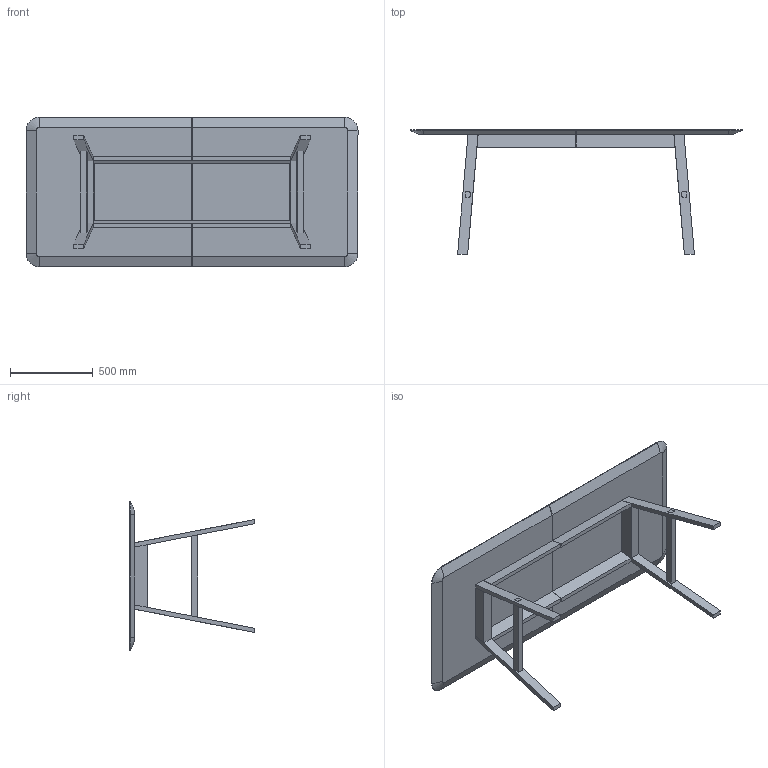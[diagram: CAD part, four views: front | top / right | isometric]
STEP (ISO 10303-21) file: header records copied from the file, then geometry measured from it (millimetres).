
FILE_DESCRIPTION (( 'STEP AP203' ), '1' );
FILE_NAME ('MALIN DINING TABLE.STEP', '2020-07-09T12:20:29', ( '' ), ( '' ), 'SwSTEP 2.0', 'SolidWorks 2020', '' );
FILE_SCHEMA (( 'CONFIG_CONTROL_DESIGN' ));
Length unit declared in the file: millimetre
Products named in the file (1): MALIN DINING TABLE
Bounding box: 2000 x 750 x 900 mm (x, y, z)
Volume: 63156314.4 mm3; surface area: 4748222.7 mm2
Topology: 1 solids, 1 shells, 122 faces, 300 edges, 180 vertices
Faces by surface type: plane 110, cone 8, cylinder 4
Entity records: 3553 total; most frequent: CARTESIAN_POINT 651, ORIENTED_EDGE 600, DIRECTION 546, EDGE_CURVE 300, VECTOR 268, LINE 268, VERTEX_POINT 180, AXIS2_PLACEMENT_3D 139
